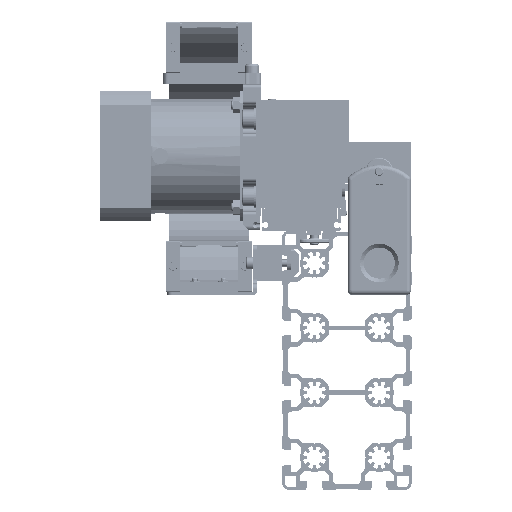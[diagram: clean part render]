
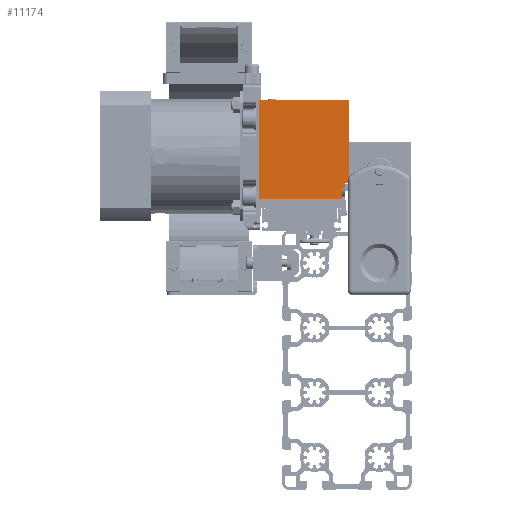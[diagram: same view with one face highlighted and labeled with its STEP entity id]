
A CAD part, front view. The second image highlights one B-rep face of the part: STEP entity #11174.
In plain terms, the highlighted planar face has unit normal (0, -1, 0) as drawn and (1, 0, 0) by its records, which use the part's own axes.
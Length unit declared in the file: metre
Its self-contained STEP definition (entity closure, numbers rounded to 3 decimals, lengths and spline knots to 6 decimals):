
#11174 = ADVANCED_FACE( '', ( #21614 ), #21615, .F. );
#21614 = FACE_OUTER_BOUND( '', #32118, .T. );
#21615 = PLANE( '', #32119 );
#32118 = EDGE_LOOP( '', ( #58199, #58200, #58201, #58202, #58203, #58204, #58205, #58206, #58207, #58208 ) );
#32119 = AXIS2_PLACEMENT_3D( '', #58209, #58210, #58211 );
#58199 = ORIENTED_EDGE( '', *, *, #70110, .F. );
#58200 = ORIENTED_EDGE( '', *, *, #63399, .T. );
#58201 = ORIENTED_EDGE( '', *, *, #70264, .F. );
#58202 = ORIENTED_EDGE( '', *, *, #61565, .T. );
#58203 = ORIENTED_EDGE( '', *, *, #67971, .T. );
#58204 = ORIENTED_EDGE( '', *, *, #69401, .F. );
#58205 = ORIENTED_EDGE( '', *, *, #67175, .F. );
#58206 = ORIENTED_EDGE( '', *, *, #70060, .T. );
#58207 = ORIENTED_EDGE( '', *, *, #70265, .F. );
#58208 = ORIENTED_EDGE( '', *, *, #69511, .F. );
#58209 = CARTESIAN_POINT( '', ( 0.125, -0.030683, 0.07519 ) );
#58210 = DIRECTION( '', ( -1., 0., 0. ) );
#58211 = DIRECTION( '', ( 0., 0., -1. ) );
#61565 = EDGE_CURVE( '', #73738, #73736, #73739, .T. );
#63399 = EDGE_CURVE( '', #76811, #76813, #76815, .T. );
#67175 = EDGE_CURVE( '', #82594, #82596, #82597, .T. );
#67971 = EDGE_CURVE( '', #73736, #83666, #83667, .T. );
#69401 = EDGE_CURVE( '', #82596, #83666, #85447, .T. );
#69511 = EDGE_CURVE( '', #85571, #85569, #85573, .T. );
#70060 = EDGE_CURVE( '', #82594, #86163, #86165, .T. );
#70110 = EDGE_CURVE( '', #76811, #85571, #86215, .T. );
#70264 = EDGE_CURVE( '', #73738, #76813, #86370, .T. );
#70265 = EDGE_CURVE( '', #85569, #86163, #86371, .T. );
#73736 = VERTEX_POINT( '', #90605 );
#73738 = VERTEX_POINT( '', #90608 );
#73739 = LINE( '', #90609, #90610 );
#76811 = VERTEX_POINT( '', #94984 );
#76813 = VERTEX_POINT( '', #94986 );
#76815 = LINE( '', #94988, #94989 );
#82594 = VERTEX_POINT( '', #103708 );
#82596 = VERTEX_POINT( '', #103710 );
#82597 = LINE( '', #103711, #103712 );
#83666 = VERTEX_POINT( '', #105321 );
#83667 = LINE( '', #105322, #105323 );
#85447 = LINE( '', #108034, #108035 );
#85569 = VERTEX_POINT( '', #108203 );
#85571 = VERTEX_POINT( '', #108206 );
#85573 = LINE( '', #108209, #108210 );
#86163 = VERTEX_POINT( '', #109031 );
#86165 = LINE( '', #109033, #109034 );
#86215 = LINE( '', #109097, #109098 );
#86370 = LINE( '', #109283, #109284 );
#86371 = LINE( '', #109285, #109286 );
#90605 = CARTESIAN_POINT( '', ( 0.125, 0.030683, 0.017526 ) );
#90608 = CARTESIAN_POINT( '', ( 0.125, 0.027381, 0.017526 ) );
#90609 = CARTESIAN_POINT( '', ( 0.125, 0.027381, 0.017526 ) );
#90610 = VECTOR( '', #111756, 1. );
#94984 = CARTESIAN_POINT( '', ( 0.125, 0.025349, 0.014033 ) );
#94986 = CARTESIAN_POINT( '', ( 0.125, 0.027381, 0.014033 ) );
#94988 = CARTESIAN_POINT( '', ( 0.125, -0.030683, 0.014033 ) );
#94989 = VECTOR( '', #114086, 1. );
#103708 = CARTESIAN_POINT( '', ( 0.125, -0.031953, 0.000889 ) );
#103710 = CARTESIAN_POINT( '', ( 0.125, -0.031953, 0.07519 ) );
#103711 = CARTESIAN_POINT( '', ( 0.125, -0.031953, 0.07519 ) );
#103712 = VECTOR( '', #119101, 1. );
#105321 = CARTESIAN_POINT( '', ( 0.125, 0.030683, 0.07519 ) );
#105322 = CARTESIAN_POINT( '', ( 0.125, 0.030683, 0.07519 ) );
#105323 = VECTOR( '', #119961, 1. );
#108034 = CARTESIAN_POINT( '', ( 0.125, -0.030683, 0.07519 ) );
#108035 = VECTOR( '', #121582, 1. );
#108203 = CARTESIAN_POINT( '', ( 0.125, 0.027381, 0.003683 ) );
#108206 = CARTESIAN_POINT( '', ( 0.125, 0.025349, 0.003683 ) );
#108209 = CARTESIAN_POINT( '', ( 0.125, 0.025349, 0.003683 ) );
#108210 = VECTOR( '', #121679, 1. );
#109031 = CARTESIAN_POINT( '', ( 0.125, 0.027381, 0.000889 ) );
#109033 = CARTESIAN_POINT( '', ( 0.125, -0.030683, 0.000889 ) );
#109034 = VECTOR( '', #121990, 1. );
#109097 = CARTESIAN_POINT( '', ( 0.125, 0.025349, 0.007683 ) );
#109098 = VECTOR( '', #122004, 1. );
#109283 = CARTESIAN_POINT( '', ( 0.125, 0.027381, 0.000635 ) );
#109284 = VECTOR( '', #122044, 1. );
#109285 = CARTESIAN_POINT( '', ( 0.125, 0.027381, 0.000635 ) );
#109286 = VECTOR( '', #122045, 1. );
#111756 = DIRECTION( '', ( 0., 1., 0. ) );
#114086 = DIRECTION( '', ( 0., 1., 0. ) );
#119101 = DIRECTION( '', ( 0., 0., 1. ) );
#119961 = DIRECTION( '', ( 0., 0., 1. ) );
#121582 = DIRECTION( '', ( 0., 1., 0. ) );
#121679 = DIRECTION( '', ( 0., 1., 0. ) );
#121990 = DIRECTION( '', ( 0., 1., 0. ) );
#122004 = DIRECTION( '', ( 0., 0., -1. ) );
#122044 = DIRECTION( '', ( 0., 0., -1. ) );
#122045 = DIRECTION( '', ( 0., 0., -1. ) );
